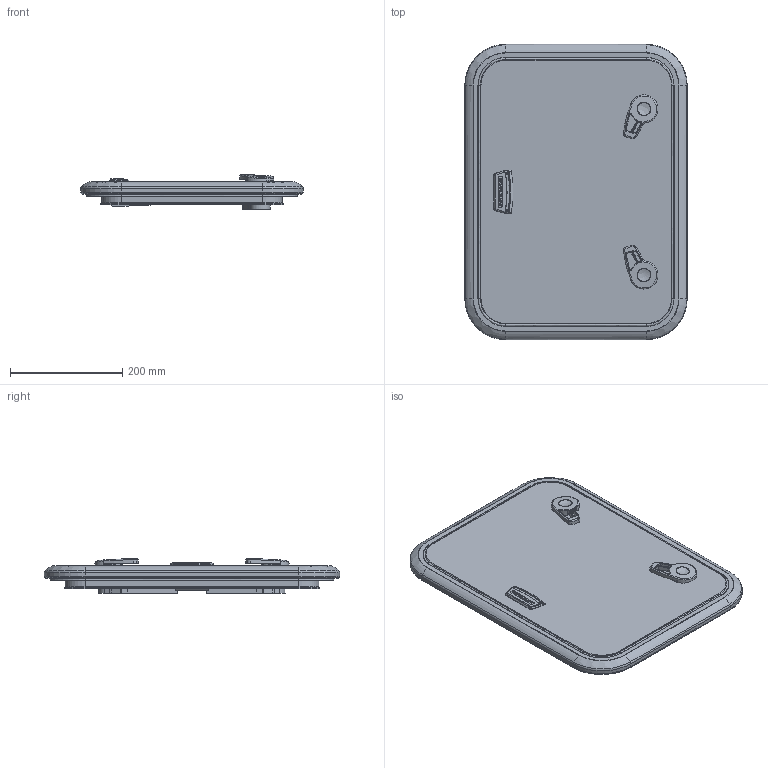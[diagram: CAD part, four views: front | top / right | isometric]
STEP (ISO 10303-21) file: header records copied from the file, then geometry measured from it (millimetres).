
FILE_DESCRIPTION((''),'2;1');
FILE_NAME('LEWMAR-HATCH-LOWPRO-30_ASM','2008-02-05T',('skennedy'),(''),'PRO/ENGINEER BY PARAMETRIC TECHNOLOGY CORPORATION, 2007030','PRO/ENGINEER BY PARAMETRIC TECHNOLOGY CORPORATION, 2007030','');
FILE_SCHEMA(('CONFIG_CONTROL_DESIGN'));
Length unit declared in the file: millimetre
Products named in the file (6): FRAME_30; 3593053X; HINGE_LEVER_LP; HANDLE_LP_LHS; HANDLE_LP_RHS; LEWMAR-HATCH-LOWPRO-30_ASM
Assembly tree (5 placements, depth 2):
  LEWMAR-HATCH-LOWPRO-30_ASM
    FRAME_30
    3593053X
    HINGE_LEVER_LP
    HANDLE_LP_LHS
    HANDLE_LP_RHS
Bounding box: 397 x 527 x 61.17 mm (x, y, z)
Volume: 3182339.4 mm3; surface area: 736157.4 mm2
Topology: 5 solids, 5 shells, 899 faces, 2244 edges, 1372 vertices
Faces by surface type: bspline 354, plane 297, cylinder 135, cone 41, torus 35, extrusion 23, sphere 14
Entity records: 39278 total; most frequent: CARTESIAN_POINT 20155, ORIENTED_EDGE 4464, DIRECTION 3023, EDGE_CURVE 2232, VERTEX_POINT 1372, AXIS2_PLACEMENT_3D 1057, EDGE_LOOP 958, VECTOR 909
